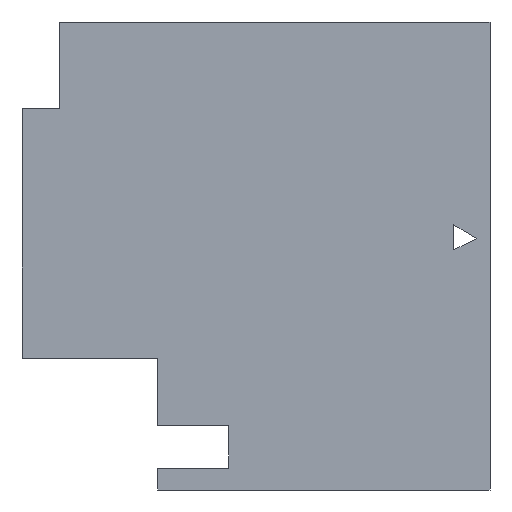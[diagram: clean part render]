
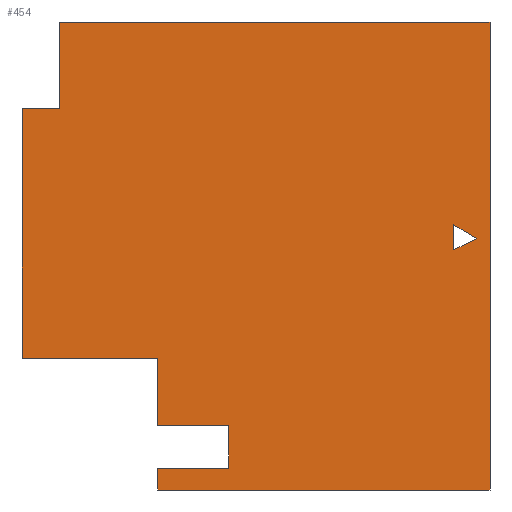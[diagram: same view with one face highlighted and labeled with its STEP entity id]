
A CAD part, front view. The second image highlights one B-rep face of the part: STEP entity #454.
In plain terms, the highlighted planar face has unit normal (0, -1, 0).
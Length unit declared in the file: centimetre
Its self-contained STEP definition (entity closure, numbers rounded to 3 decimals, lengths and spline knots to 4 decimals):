
#12 = EDGE_CURVE ( 'NONE', #155, #283, #634, .T. ) ;
#16 = LINE ( 'NONE', #67, #53 ) ;
#19 = EDGE_CURVE ( 'NONE', #416, #86, #700, .T. ) ;
#23 = VERTEX_POINT ( 'NONE', #319 ) ;
#26 = EDGE_CURVE ( 'NONE', #200, #779, #455, .T. ) ;
#47 = CARTESIAN_POINT ( 'NONE',  ( 0., 0., 0. ) ) ;
#50 = DIRECTION ( 'NONE',  ( 0., 0., 1. ) ) ;
#53 = VECTOR ( 'NONE', #709, 100. ) ;
#54 = EDGE_CURVE ( 'NONE', #779, #23, #16, .T. ) ;
#67 = CARTESIAN_POINT ( 'NONE',  ( 0., 0., 1000. ) ) ;
#73 = CARTESIAN_POINT ( 'NONE',  ( 79.7185, 0., 815.2604 ) ) ;
#80 = DIRECTION ( 'NONE',  ( 0., 0., -1. ) ) ;
#86 = VERTEX_POINT ( 'NONE', #452 ) ;
#88 = CARTESIAN_POINT ( 'NONE',  ( 290.0611, 0., 0. ) ) ;
#104 = CARTESIAN_POINT ( 'NONE',  ( 0., 0., 281.394 ) ) ;
#110 = VERTEX_POINT ( 'NONE', #132 ) ;
#124 = CARTESIAN_POINT ( 'NONE',  ( 0., 0., 815.2604 ) ) ;
#130 = VECTOR ( 'NONE', #174, 100. ) ;
#132 = CARTESIAN_POINT ( 'NONE',  ( 922.8505, 0., 513.1759 ) ) ;
#134 = VERTEX_POINT ( 'NONE', #137 ) ;
#137 = CARTESIAN_POINT ( 'NONE',  ( 0., 0., 815.2604 ) ) ;
#147 = ORIENTED_EDGE ( 'NONE', *, *, #54, .F. ) ;
#149 = DIRECTION ( 'NONE',  ( 0., 0., -1. ) ) ;
#150 = VERTEX_POINT ( 'NONE', #213 ) ;
#155 = VERTEX_POINT ( 'NONE', #621 ) ;
#160 = VECTOR ( 'NONE', #404, 100. ) ;
#162 = ORIENTED_EDGE ( 'NONE', *, *, #12, .F. ) ;
#174 = DIRECTION ( 'NONE',  ( 0., 0., 1. ) ) ;
#196 = DIRECTION ( 'NONE',  ( 0., 0., 1. ) ) ;
#200 = VERTEX_POINT ( 'NONE', #677 ) ;
#213 = CARTESIAN_POINT ( 'NONE',  ( 290.0611, 0., 46.8358 ) ) ;
#218 = EDGE_LOOP ( 'NONE', ( #699, #222, #331, #451, #403, #147, #504, #745, #398, #162, #714, #577 ) ) ;
#220 = CARTESIAN_POINT ( 'NONE',  ( 79.7185, 0., 1000. ) ) ;
#222 = ORIENTED_EDGE ( 'NONE', *, *, #289, .T. ) ;
#226 = CARTESIAN_POINT ( 'NONE',  ( 970.6377, 0., 537.2625 ) ) ;
#236 = CARTESIAN_POINT ( 'NONE',  ( 0., 0., 1000. ) ) ;
#239 = CARTESIAN_POINT ( 'NONE',  ( 922.8505, 0., 566.6042 ) ) ;
#252 = EDGE_CURVE ( 'NONE', #553, #416, #297, .T. ) ;
#278 = ORIENTED_EDGE ( 'NONE', *, *, #550, .T. ) ;
#283 = VERTEX_POINT ( 'NONE', #104 ) ;
#286 = EDGE_CURVE ( 'NONE', #522, #406, #294, .T. ) ;
#287 = CARTESIAN_POINT ( 'NONE',  ( 442.2039, 0., 137.1541 ) ) ;
#289 = EDGE_CURVE ( 'NONE', #86, #150, #536, .T. ) ;
#290 = LINE ( 'NONE', #47, #570 ) ;
#294 = LINE ( 'NONE', #226, #160 ) ;
#297 = LINE ( 'NONE', #790, #791 ) ;
#304 = VECTOR ( 'NONE', #417, 100. ) ;
#308 = VECTOR ( 'NONE', #625, 100. ) ;
#309 = LINE ( 'NONE', #124, #590 ) ;
#316 = CARTESIAN_POINT ( 'NONE',  ( 1000., 0., 0. ) ) ;
#318 = CARTESIAN_POINT ( 'NONE',  ( 290.0611, 0., 0. ) ) ;
#319 = CARTESIAN_POINT ( 'NONE',  ( 1000., 0., 1000. ) ) ;
#323 = EDGE_CURVE ( 'NONE', #553, #155, #649, .T. ) ;
#331 = ORIENTED_EDGE ( 'NONE', *, *, #695, .F. ) ;
#353 = FACE_OUTER_BOUND ( 'NONE', #218, .T. ) ;
#370 = CARTESIAN_POINT ( 'NONE',  ( 922.8505, 0., 513.1759 ) ) ;
#398 = ORIENTED_EDGE ( 'NONE', *, *, #797, .T. ) ;
#403 = ORIENTED_EDGE ( 'NONE', *, *, #812, .F. ) ;
#404 = DIRECTION ( 'NONE',  ( 0.852, 0., -0.523 ) ) ;
#405 = LINE ( 'NONE', #642, #410 ) ;
#406 = VERTEX_POINT ( 'NONE', #784 ) ;
#410 = VECTOR ( 'NONE', #80, 100. ) ;
#416 = VERTEX_POINT ( 'NONE', #287 ) ;
#417 = DIRECTION ( 'NONE',  ( 0., 0., 1. ) ) ;
#423 = PLANE ( 'NONE',  #495 ) ;
#441 = LINE ( 'NONE', #687, #308 ) ;
#444 = VECTOR ( 'NONE', #627, 100. ) ;
#451 = ORIENTED_EDGE ( 'NONE', *, *, #486, .T. ) ;
#452 = CARTESIAN_POINT ( 'NONE',  ( 442.2039, 0., 46.8358 ) ) ;
#454 = ADVANCED_FACE ( 'NONE', ( #481, #353 ), #423, .F. ) ;
#455 = LINE ( 'NONE', #73, #776 ) ;
#463 = ORIENTED_EDGE ( 'NONE', *, *, #544, .T. ) ;
#481 = FACE_BOUND ( 'NONE', #777, .T. ) ;
#486 = EDGE_CURVE ( 'NONE', #707, #684, #290, .T. ) ;
#495 = AXIS2_PLACEMENT_3D ( 'NONE', #236, #666, #50 ) ;
#498 = DIRECTION ( 'NONE',  ( 1., 0., 0. ) ) ;
#504 = ORIENTED_EDGE ( 'NONE', *, *, #26, .F. ) ;
#505 = VECTOR ( 'NONE', #564, 100. ) ;
#512 = CARTESIAN_POINT ( 'NONE',  ( 0., 0., 281.394 ) ) ;
#514 = LINE ( 'NONE', #576, #656 ) ;
#522 = VERTEX_POINT ( 'NONE', #545 ) ;
#536 = LINE ( 'NONE', #606, #617 ) ;
#539 = DIRECTION ( 'NONE',  ( 1., 0., 0. ) ) ;
#544 = EDGE_CURVE ( 'NONE', #406, #110, #675, .T. ) ;
#545 = CARTESIAN_POINT ( 'NONE',  ( 922.8505, 0., 566.6042 ) ) ;
#546 = VECTOR ( 'NONE', #796, 100. ) ;
#550 = EDGE_CURVE ( 'NONE', #110, #522, #734, .T. ) ;
#553 = VERTEX_POINT ( 'NONE', #668 ) ;
#564 = DIRECTION ( 'NONE',  ( 0., 0., -1. ) ) ;
#570 = VECTOR ( 'NONE', #787, 100. ) ;
#572 = EDGE_CURVE ( 'NONE', #134, #200, #309, .T. ) ;
#576 = CARTESIAN_POINT ( 'NONE',  ( 0., 0., 1000. ) ) ;
#577 = ORIENTED_EDGE ( 'NONE', *, *, #252, .T. ) ;
#584 = ORIENTED_EDGE ( 'NONE', *, *, #286, .T. ) ;
#590 = VECTOR ( 'NONE', #498, 100. ) ;
#606 = CARTESIAN_POINT ( 'NONE',  ( 165.2771, 0., 46.8358 ) ) ;
#617 = VECTOR ( 'NONE', #798, 100. ) ;
#621 = CARTESIAN_POINT ( 'NONE',  ( 290.0611, 0., 281.394 ) ) ;
#625 = DIRECTION ( 'NONE',  ( 0., 0., 1. ) ) ;
#627 = DIRECTION ( 'NONE',  ( -1., 0., 0. ) ) ;
#634 = LINE ( 'NONE', #512, #444 ) ;
#642 = CARTESIAN_POINT ( 'NONE',  ( 1000., 0., 1000. ) ) ;
#649 = LINE ( 'NONE', #88, #304 ) ;
#656 = VECTOR ( 'NONE', #149, 100. ) ;
#666 = DIRECTION ( 'NONE',  ( 0., 1., 0. ) ) ;
#668 = CARTESIAN_POINT ( 'NONE',  ( 290.0611, 0., 137.1541 ) ) ;
#675 = LINE ( 'NONE', #370, #546 ) ;
#677 = CARTESIAN_POINT ( 'NONE',  ( 79.7185, 0., 815.2604 ) ) ;
#684 = VERTEX_POINT ( 'NONE', #316 ) ;
#687 = CARTESIAN_POINT ( 'NONE',  ( 290.0611, 0., 0. ) ) ;
#695 = EDGE_CURVE ( 'NONE', #707, #150, #441, .T. ) ;
#699 = ORIENTED_EDGE ( 'NONE', *, *, #19, .T. ) ;
#700 = LINE ( 'NONE', #767, #505 ) ;
#707 = VERTEX_POINT ( 'NONE', #318 ) ;
#709 = DIRECTION ( 'NONE',  ( 1., 0., 0. ) ) ;
#714 = ORIENTED_EDGE ( 'NONE', *, *, #323, .F. ) ;
#734 = LINE ( 'NONE', #239, #130 ) ;
#745 = ORIENTED_EDGE ( 'NONE', *, *, #572, .F. ) ;
#767 = CARTESIAN_POINT ( 'NONE',  ( 442.2039, 0., 46.8358 ) ) ;
#776 = VECTOR ( 'NONE', #196, 100. ) ;
#777 = EDGE_LOOP ( 'NONE', ( #463, #278, #584 ) ) ;
#779 = VERTEX_POINT ( 'NONE', #220 ) ;
#784 = CARTESIAN_POINT ( 'NONE',  ( 970.6377, 0., 537.2625 ) ) ;
#787 = DIRECTION ( 'NONE',  ( 1., 0., 0. ) ) ;
#790 = CARTESIAN_POINT ( 'NONE',  ( 165.2771, 0., 137.1541 ) ) ;
#791 = VECTOR ( 'NONE', #539, 100. ) ;
#796 = DIRECTION ( 'NONE',  ( -0.893, 0., -0.45 ) ) ;
#797 = EDGE_CURVE ( 'NONE', #134, #283, #514, .T. ) ;
#798 = DIRECTION ( 'NONE',  ( -1., 0., 0. ) ) ;
#812 = EDGE_CURVE ( 'NONE', #23, #684, #405, .T. ) ;
